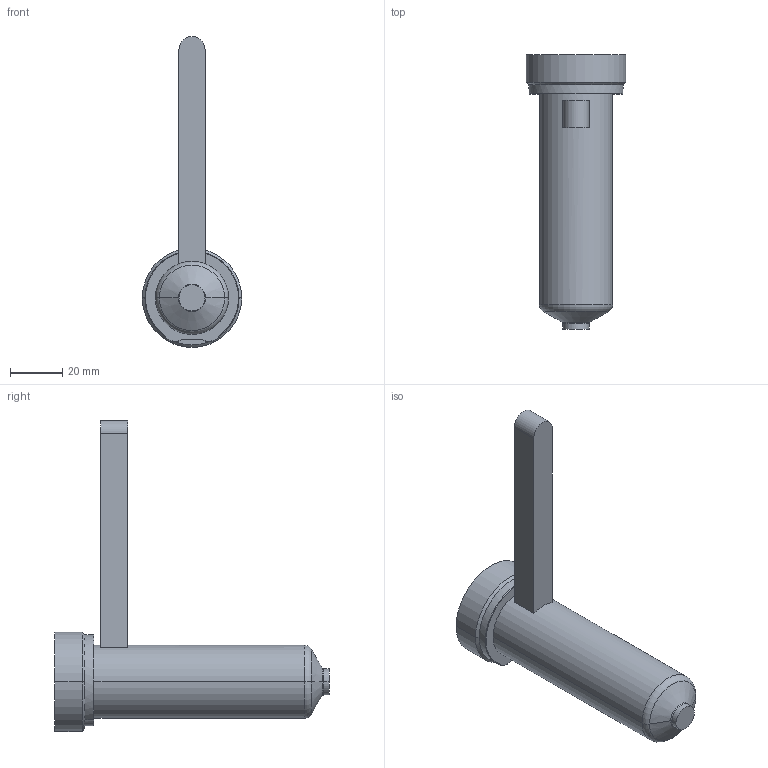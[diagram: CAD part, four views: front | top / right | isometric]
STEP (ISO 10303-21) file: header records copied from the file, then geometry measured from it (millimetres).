
FILE_DESCRIPTION((''),'2;1');
FILE_NAME('EO06_VG-FB_WR_090_COT','2024-02-19T13:26:57',('sundharh'),(''),'CREO PARAMETRIC BY PTC INC, 2023154','CREO PARAMETRIC BY PTC INC, 2023154','');
FILE_SCHEMA(('CONFIG_CONTROL_DESIGN'));
Length unit declared in the file: millimetre
Products named in the file (1): EO06_VG-FB_WR_090_COT
Bounding box: 38 x 105 x 119 mm (x, y, z)
Volume: 77867.5 mm3; surface area: 14811.9 mm2
Topology: 1 solids, 1 shells, 31 faces, 67 edges, 40 vertices
Faces by surface type: cylinder 11, plane 9, torus 7, cone 4
Entity records: 963 total; most frequent: CARTESIAN_POINT 230, DIRECTION 159, ORIENTED_EDGE 134, AXIS2_PLACEMENT_3D 67, EDGE_CURVE 67, VERTEX_POINT 40, CIRCLE 36, EDGE_LOOP 33
